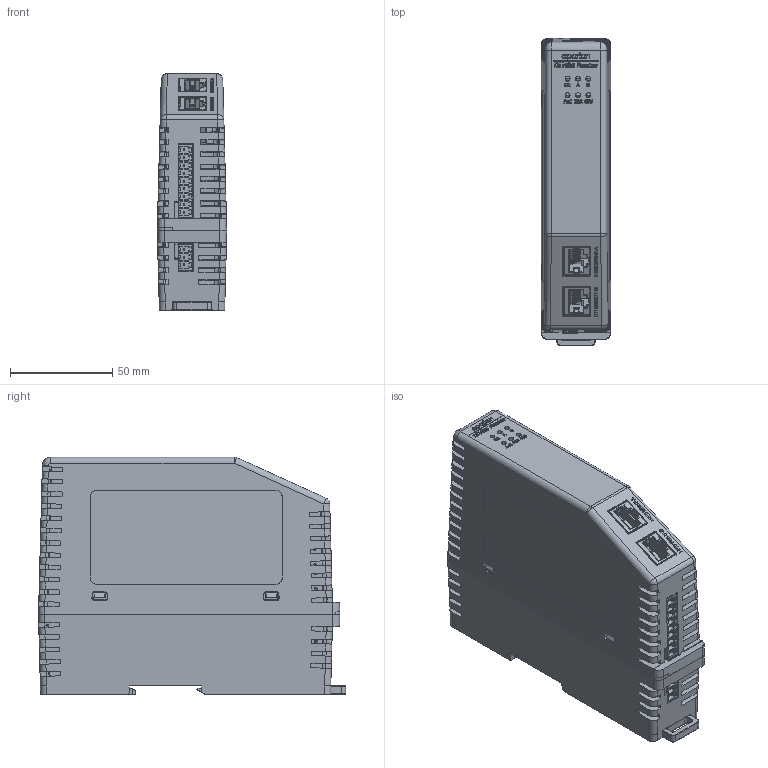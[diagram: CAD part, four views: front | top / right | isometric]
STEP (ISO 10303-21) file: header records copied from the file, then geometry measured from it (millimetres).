
FILE_DESCRIPTION (( 'STEP AP214' ), '1' );
FILE_NAME ('Aparian DH485 Router.STEP', '2021-09-08T18:30:00', ( '' ), ( '' ), 'SwSTEP 2.0', 'SolidWorks 2020', '' );
FILE_SCHEMA (( 'AUTOMOTIVE_DESIGN' ));
Length unit declared in the file: millimetre
Products named in the file (16): M-UE27-AC54-100-REVG1-3; DipSwitch; M-UE27-AC54-100-REVG1-4; USB; Part1.SLDPRT; Socket9; M-UE27-AC54-100-REVG1-1; JD1-0003NL1; PCD_LID_A_02_Rev4B_DH485 router; PCD_Dual_R02_Profibus_DP; M-UE27-AC54-100-REVG1-2; Aparian DH485 Router; TriLED; Clip_PCD; PCD_BASE_A_01; Socket3a
Assembly tree (13 placements, depth 3):
  M-UE27-AC54-100-REVG1-3
  M-UE27-AC54-100-REVG1-4
  M-UE27-AC54-100-REVG1-1
  M-UE27-AC54-100-REVG1-2
  Aparian DH485 Router
    PCD_BASE_A_01
    PCD_LID_A_02_Rev4B_DH485 router
    PCD_Dual_R02_Profibus_DP
    TriLED  x2
    DipSwitch
    JD1-0003NL1  x2
    Socket3a
    Socket9
    Clip_PCD
    USB
      Part1.SLDPRT
Bounding box: 34.03 x 150.33 x 116.3 mm (x, y, z)
Volume: 142144.8 mm3; surface area: 146744.4 mm2
Topology: 10 solids, 16 shells, 6310 faces, 17310 edges, 10987 vertices
Faces by surface type: plane 3825, cylinder 1427, bspline 656, cone 157, torus 132, sphere 113
Entity records: 204964 total; most frequent: CARTESIAN_POINT 55712, ORIENTED_EDGE 28748, DIRECTION 24160, EDGE_CURVE 14394, VECTOR 9986, LINE 9986, VERTEX_POINT 9150, AXIS2_PLACEMENT_3D 7087
